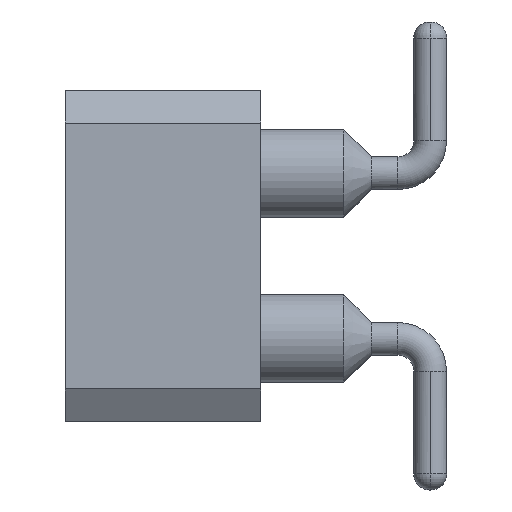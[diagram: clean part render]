
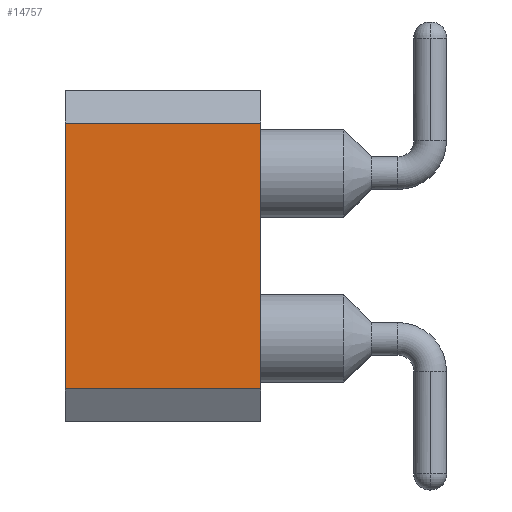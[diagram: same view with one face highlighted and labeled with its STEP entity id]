
A CAD part, left-side view. The second image highlights one B-rep face of the part: STEP entity #14757.
In plain terms, the highlighted planar face has unit normal (-1, 0, 0).
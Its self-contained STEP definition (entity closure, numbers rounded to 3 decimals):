
#436 = DIRECTION ( 'NONE',  ( 0., 1., 0. ) ) ;
#566 = DIRECTION ( 'NONE',  ( 0., 1., 0. ) ) ;
#2270 = EDGE_CURVE ( 'NONE', #28936, #25989, #11514, .T. ) ;
#2663 = VECTOR ( 'NONE', #566, 1000. ) ;
#2717 = CARTESIAN_POINT ( 'NONE',  ( -1.223, -1.5, 0.863 ) ) ;
#4843 = EDGE_CURVE ( 'NONE', #18211, #28936, #12180, .T. ) ;
#5105 = CARTESIAN_POINT ( 'NONE',  ( -1.223, -1.5, -3.217 ) ) ;
#5699 = DIRECTION ( 'NONE',  ( 0., 0., 1. ) ) ;
#5720 = EDGE_LOOP ( 'NONE', ( #11436, #27321, #9992, #29779 ) ) ;
#8998 = VERTEX_POINT ( 'NONE', #15851 ) ;
#9723 = VECTOR ( 'NONE', #5699, 1000. ) ;
#9992 = ORIENTED_EDGE ( 'NONE', *, *, #12121, .F. ) ;
#10281 = PLANE ( 'NONE',  #13741 ) ;
#11436 = ORIENTED_EDGE ( 'NONE', *, *, #2270, .T. ) ;
#11514 = LINE ( 'NONE', #16516, #30767 ) ;
#12121 = EDGE_CURVE ( 'NONE', #18211, #8998, #26316, .T. ) ;
#12180 = LINE ( 'NONE', #26355, #20176 ) ;
#13308 = EDGE_CURVE ( 'NONE', #8998, #25989, #29882, .T. ) ;
#13741 = AXIS2_PLACEMENT_3D ( 'NONE', #27274, #26976, #436 ) ;
#14757 = ADVANCED_FACE ( 'NONE', ( #29303 ), #10281, .F. ) ;
#15851 = CARTESIAN_POINT ( 'NONE',  ( -1.223, 1.5, -3.217 ) ) ;
#15962 = CARTESIAN_POINT ( 'NONE',  ( -1.223, 1.5, 0.863 ) ) ;
#16516 = CARTESIAN_POINT ( 'NONE',  ( -1.223, -1.5, 0.863 ) ) ;
#17181 = DIRECTION ( 'NONE',  ( 0., 0., 1. ) ) ;
#18211 = VERTEX_POINT ( 'NONE', #21127 ) ;
#20176 = VECTOR ( 'NONE', #17181, 1000. ) ;
#21127 = CARTESIAN_POINT ( 'NONE',  ( -1.223, -1.5, -3.217 ) ) ;
#22218 = CARTESIAN_POINT ( 'NONE',  ( -1.223, 1.5, -1.177 ) ) ;
#25387 = DIRECTION ( 'NONE',  ( 0., 1., 0. ) ) ;
#25989 = VERTEX_POINT ( 'NONE', #15962 ) ;
#26316 = LINE ( 'NONE', #5105, #2663 ) ;
#26355 = CARTESIAN_POINT ( 'NONE',  ( -1.223, -1.5, -1.177 ) ) ;
#26976 = DIRECTION ( 'NONE',  ( 1., 0., 0. ) ) ;
#27274 = CARTESIAN_POINT ( 'NONE',  ( -1.223, 1.5, -1.177 ) ) ;
#27321 = ORIENTED_EDGE ( 'NONE', *, *, #13308, .F. ) ;
#28936 = VERTEX_POINT ( 'NONE', #2717 ) ;
#29303 = FACE_OUTER_BOUND ( 'NONE', #5720, .T. ) ;
#29779 = ORIENTED_EDGE ( 'NONE', *, *, #4843, .T. ) ;
#29882 = LINE ( 'NONE', #22218, #9723 ) ;
#30767 = VECTOR ( 'NONE', #25387, 1000. ) ;
